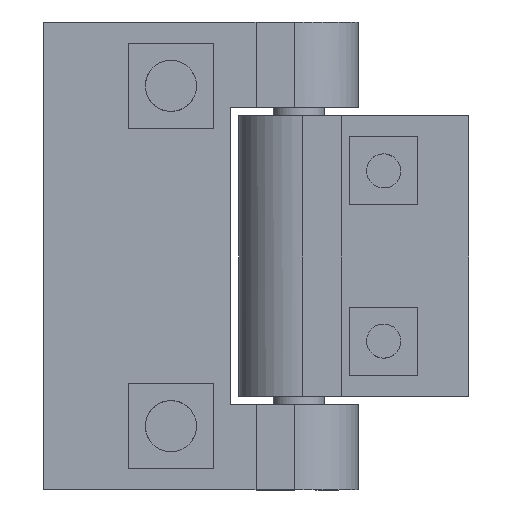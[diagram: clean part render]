
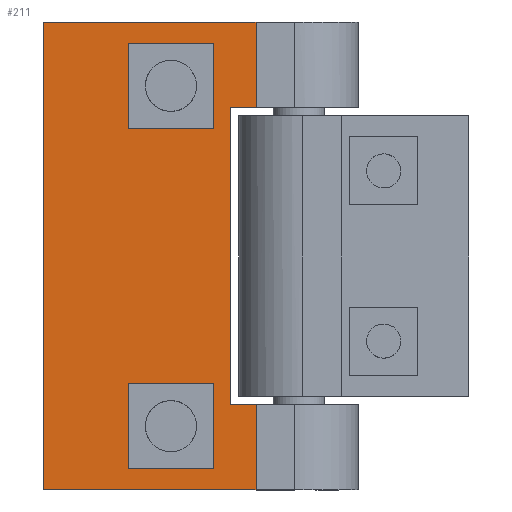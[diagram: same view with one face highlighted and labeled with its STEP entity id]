
A CAD part, front view. The second image highlights one B-rep face of the part: STEP entity #211.
In plain terms, the highlighted planar face has unit normal (0, -1, 0).
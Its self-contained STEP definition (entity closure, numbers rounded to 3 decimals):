
#63=FACE_BOUND($,#543,.T.);
#64=FACE_BOUND($,#544,.T.);
#211=ADVANCED_FACE($,(#362,#63,#64),#1914,.T.);
#362=FACE_OUTER_BOUND($,#542,.T.);
#542=EDGE_LOOP($,(#1196,#1197,#1198,#1199,#1200,#1201,#1202,#1203));
#543=EDGE_LOOP($,(#1204,#1205));
#544=EDGE_LOOP($,(#1206,#1207));
#1196=ORIENTED_EDGE($,*,*,#1591,.T.);
#1197=ORIENTED_EDGE($,*,*,#1590,.T.);
#1198=ORIENTED_EDGE($,*,*,#1587,.T.);
#1199=ORIENTED_EDGE($,*,*,#1584,.T.);
#1200=ORIENTED_EDGE($,*,*,#1560,.F.);
#1201=ORIENTED_EDGE($,*,*,#1573,.F.);
#1202=ORIENTED_EDGE($,*,*,#1547,.F.);
#1203=ORIENTED_EDGE($,*,*,#1552,.F.);
#1204=ORIENTED_EDGE($,*,*,#1512,.T.);
#1205=ORIENTED_EDGE($,*,*,#1600,.T.);
#1206=ORIENTED_EDGE($,*,*,#1536,.T.);
#1207=ORIENTED_EDGE($,*,*,#1516,.T.);
#1512=EDGE_CURVE($,#1773,#1775,#2094,.T.);
#1516=EDGE_CURVE($,#1777,#1779,#2096,.T.);
#1536=EDGE_CURVE($,#1779,#1777,#2105,.T.);
#1547=EDGE_CURVE($,#1801,#1798,#2285,.T.);
#1552=EDGE_CURVE($,#1805,#1801,#2289,.T.);
#1560=EDGE_CURVE($,#1811,#1808,#2297,.T.);
#1573=EDGE_CURVE($,#1798,#1811,#2308,.T.);
#1584=EDGE_CURVE($,#1826,#1808,#2319,.T.);
#1587=EDGE_CURVE($,#1828,#1826,#2322,.T.);
#1590=EDGE_CURVE($,#1830,#1828,#2325,.T.);
#1591=EDGE_CURVE($,#1805,#1830,#2326,.T.);
#1600=EDGE_CURVE($,#1775,#1773,#2111,.T.);
#1773=VERTEX_POINT($,#4677);
#1775=VERTEX_POINT($,#4679);
#1777=VERTEX_POINT($,#4681);
#1779=VERTEX_POINT($,#4683);
#1798=VERTEX_POINT($,#4702);
#1801=VERTEX_POINT($,#4705);
#1805=VERTEX_POINT($,#4709);
#1808=VERTEX_POINT($,#4712);
#1811=VERTEX_POINT($,#4715);
#1826=VERTEX_POINT($,#4730);
#1828=VERTEX_POINT($,#4732);
#1830=VERTEX_POINT($,#4734);
#1914=PLANE($,#2502);
#2094=(
BOUNDED_CURVE()
B_SPLINE_CURVE(2,(#4332,#4333,#4334,#4335,#4336),.UNSPECIFIED.,.F.,.F.)
B_SPLINE_CURVE_WITH_KNOTS((3,2,3),(0.,5.498,10.996),
.UNSPECIFIED.)
CURVE()
GEOMETRIC_REPRESENTATION_ITEM()
RATIONAL_B_SPLINE_CURVE((1.,0.707,1.,0.707,1.))
REPRESENTATION_ITEM($)
);
#2096=(
BOUNDED_CURVE()
B_SPLINE_CURVE(2,(#4346,#4347,#4348,#4349,#4350),.UNSPECIFIED.,.F.,.F.)
B_SPLINE_CURVE_WITH_KNOTS((3,2,3),(0.,5.498,10.996),
.UNSPECIFIED.)
CURVE()
GEOMETRIC_REPRESENTATION_ITEM()
RATIONAL_B_SPLINE_CURVE((1.,0.707,1.,0.707,1.))
REPRESENTATION_ITEM($)
);
#2105=(
BOUNDED_CURVE()
B_SPLINE_CURVE(2,(#4413,#4414,#4415,#4416,#4417),.UNSPECIFIED.,.F.,.F.)
B_SPLINE_CURVE_WITH_KNOTS((3,2,3),(0.,5.498,10.996),
.UNSPECIFIED.)
CURVE()
GEOMETRIC_REPRESENTATION_ITEM()
RATIONAL_B_SPLINE_CURVE((1.,0.707,1.,0.707,1.))
REPRESENTATION_ITEM($)
);
#2111=(
BOUNDED_CURVE()
B_SPLINE_CURVE(2,(#4551,#4552,#4553,#4554,#4555),.UNSPECIFIED.,.F.,.F.)
B_SPLINE_CURVE_WITH_KNOTS((3,2,3),(0.,5.498,10.996),
.UNSPECIFIED.)
CURVE()
GEOMETRIC_REPRESENTATION_ITEM()
RATIONAL_B_SPLINE_CURVE((1.,0.707,1.,0.707,1.))
REPRESENTATION_ITEM($)
);
#2285=B_SPLINE_CURVE_WITH_KNOTS($,1,(#4441,#4442),.UNSPECIFIED.,.F.,.F.,
(2,2),(-55.,0.),.UNSPECIFIED.);
#2289=B_SPLINE_CURVE_WITH_KNOTS($,1,(#4452,#4453),.UNSPECIFIED.,.F.,.F.,
(2,2),(-25.,0.),.UNSPECIFIED.);
#2297=B_SPLINE_CURVE_WITH_KNOTS($,1,(#4468,#4469),.UNSPECIFIED.,.F.,.F.,
(2,2),(0.,10.),.UNSPECIFIED.);
#2308=B_SPLINE_CURVE_WITH_KNOTS($,1,(#4496,#4497),.UNSPECIFIED.,.F.,.F.,
(2,2),(-25.,0.),.UNSPECIFIED.);
#2319=B_SPLINE_CURVE_WITH_KNOTS($,1,(#4518,#4519),.UNSPECIFIED.,.F.,.F.,
(2,2),(0.,3.),.UNSPECIFIED.);
#2322=B_SPLINE_CURVE_WITH_KNOTS($,1,(#4524,#4525),.UNSPECIFIED.,.F.,.F.,
(2,2),(0.,35.),.UNSPECIFIED.);
#2325=B_SPLINE_CURVE_WITH_KNOTS($,1,(#4530,#4531),.UNSPECIFIED.,.F.,.F.,
(2,2),(0.,3.),.UNSPECIFIED.);
#2326=B_SPLINE_CURVE_WITH_KNOTS($,1,(#4532,#4533),.UNSPECIFIED.,.F.,.F.,
(2,2),(-10.,0.),.UNSPECIFIED.);
#2502=AXIS2_PLACEMENT_3D($,#4654,#2591,$);
#2591=DIRECTION($,(0.,-1.,0.));
#4332=CARTESIAN_POINT($,(-11.5,-8.,-7.5));
#4333=CARTESIAN_POINT($,(-11.5,-8.,-11.));
#4334=CARTESIAN_POINT($,(-15.,-8.,-11.));
#4335=CARTESIAN_POINT($,(-18.5,-8.,-11.));
#4336=CARTESIAN_POINT($,(-18.5,-8.,-7.5));
#4346=CARTESIAN_POINT($,(-11.5,-8.,-47.5));
#4347=CARTESIAN_POINT($,(-11.5,-8.,-51.));
#4348=CARTESIAN_POINT($,(-15.,-8.,-51.));
#4349=CARTESIAN_POINT($,(-18.5,-8.,-51.));
#4350=CARTESIAN_POINT($,(-18.5,-8.,-47.5));
#4413=CARTESIAN_POINT($,(-18.5,-8.,-47.5));
#4414=CARTESIAN_POINT($,(-18.5,-8.,-44.));
#4415=CARTESIAN_POINT($,(-15.,-8.,-44.));
#4416=CARTESIAN_POINT($,(-11.5,-8.,-44.));
#4417=CARTESIAN_POINT($,(-11.5,-8.,-47.5));
#4441=CARTESIAN_POINT($,(-30.,-8.,-55.));
#4442=CARTESIAN_POINT($,(-30.,-8.,0.));
#4452=CARTESIAN_POINT($,(-5.,-8.,-55.));
#4453=CARTESIAN_POINT($,(-30.,-8.,-55.));
#4468=CARTESIAN_POINT($,(-5.,-8.,0.));
#4469=CARTESIAN_POINT($,(-5.,-8.,-10.));
#4496=CARTESIAN_POINT($,(-30.,-8.,0.));
#4497=CARTESIAN_POINT($,(-5.,-8.,0.));
#4518=CARTESIAN_POINT($,(-8.,-8.,-10.));
#4519=CARTESIAN_POINT($,(-5.,-8.,-10.));
#4524=CARTESIAN_POINT($,(-8.,-8.,-45.));
#4525=CARTESIAN_POINT($,(-8.,-8.,-10.));
#4530=CARTESIAN_POINT($,(-5.,-8.,-45.));
#4531=CARTESIAN_POINT($,(-8.,-8.,-45.));
#4532=CARTESIAN_POINT($,(-5.,-8.,-55.));
#4533=CARTESIAN_POINT($,(-5.,-8.,-45.));
#4551=CARTESIAN_POINT($,(-18.5,-8.,-7.5));
#4552=CARTESIAN_POINT($,(-18.5,-8.,-4.));
#4553=CARTESIAN_POINT($,(-15.,-8.,-4.));
#4554=CARTESIAN_POINT($,(-11.5,-8.,-4.));
#4555=CARTESIAN_POINT($,(-11.5,-8.,-7.5));
#4654=CARTESIAN_POINT($,(-5.,-8.,0.));
#4677=CARTESIAN_POINT($,(-11.5,-8.,-7.5));
#4679=CARTESIAN_POINT($,(-18.5,-8.,-7.5));
#4681=CARTESIAN_POINT($,(-11.5,-8.,-47.5));
#4683=CARTESIAN_POINT($,(-18.5,-8.,-47.5));
#4702=CARTESIAN_POINT($,(-30.,-8.,0.));
#4705=CARTESIAN_POINT($,(-30.,-8.,-55.));
#4709=CARTESIAN_POINT($,(-5.,-8.,-55.));
#4712=CARTESIAN_POINT($,(-5.,-8.,-10.));
#4715=CARTESIAN_POINT($,(-5.,-8.,0.));
#4730=CARTESIAN_POINT($,(-8.,-8.,-10.));
#4732=CARTESIAN_POINT($,(-8.,-8.,-45.));
#4734=CARTESIAN_POINT($,(-5.,-8.,-45.));
